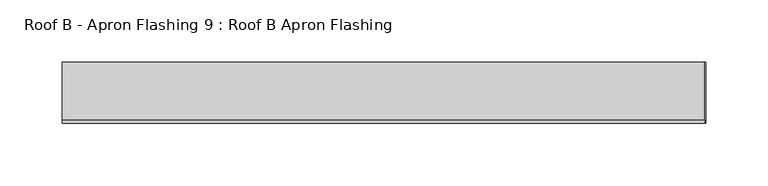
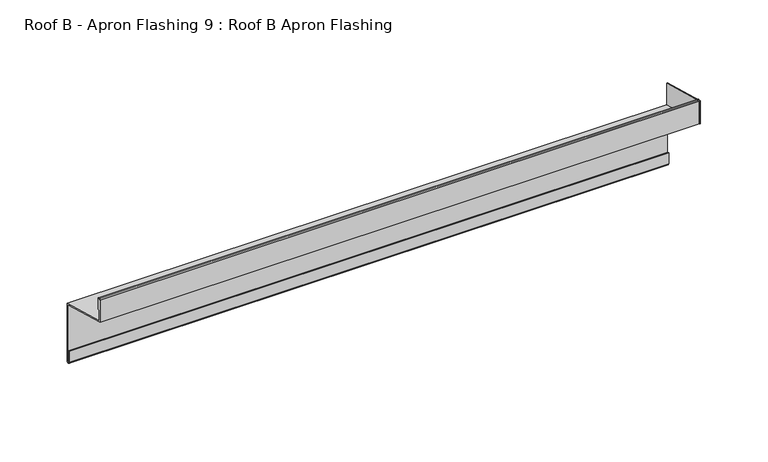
"""IFC4 building model written with IfcOpenShell, lengths in millimetres: proxy geometry, Roof B - Apron Flashing 9 : Roof B Apron Flashing."""

from ifc_helpers import new_model, si_unit, point, frame, frame_2d, origin, place, context, project, spatial, polyline, circle_curve, trimmed, segment, composite_curve, outline, extrude, source, transform, mapped, element, save


def roof_b_apron_flashing_9_roof_b_apron_flashing_62092195(model_context):
    return source(origin(), model_context, "Body", "SweptSolid", [
        extrude(outline(polyline([(-26589.4928264, -973.6339834), (-26589.4928264, -953.130654), (-26540.7391961, -966.1941499), (-26540.7391961, -986.6974792), (-26589.4928264, -973.6339834)])), frame((13537.8825627, 0.0, 0.0), z_axis=(1.0, 0.0, 0.0), x_axis=(0.0, 1.0, 0.0)), (0.0, 0.0, 1.0), 0.8428395),
        extrude(outline(composite_curve([segment(polyline([(-26540.7391961, -985.662203), (-26540.7391961, -1037.6563748)]), True, "CONTINUOUS"), segment(trimmed(circle_curve(frame_2d((-26542.2391961, -1037.6563748)), 1.5), [point((-26540.7391961, -1037.6563748))], [point((-26543.7391961, -1037.6563748))], False, "CARTESIAN"), True, "CONTINUOUS"), segment(polyline([(-26543.7391961, -1037.6563748), (-26543.7391961, -1027.6933761), (-26542.7391961, -1027.6933761), (-26542.7391961, -1037.6563748)]), True, "CONTINUOUS"), segment(trimmed(circle_curve(frame_2d((-26542.2391961, -1037.6563748)), 0.5), [point((-26542.7391961, -1037.6563748))], [point((-26541.7391961, -1037.6563748))], True, "CARTESIAN"), True, "CONTINUOUS"), segment(polyline([(-26541.7391961, -1037.6563748), (-26541.7391961, -986.42953), (-26589.4928264, -973.6339834), (-26589.4928264, -953.3538686)]), True, "CONTINUOUS"), segment(trimmed(circle_curve(frame_2d((-26588.2428264, -953.3538686)), 1.25), [point((-26589.4928264, -953.3538686))], [point((-26586.9928264, -953.3538686))], False, "CARTESIAN"), True, "CONTINUOUS"), segment(polyline([(-26586.9928264, -953.3538686), (-26586.9928264, -962.6360034)]), True, "CONTINUOUS"), segment(trimmed(circle_curve(frame_2d((-26587.4928264, -962.6360034)), 0.5), [point((-26586.9928264, -962.6360034))], [point((-26587.9928264, -962.6360034))], False, "CARTESIAN"), True, "CONTINUOUS"), segment(polyline([(-26587.9928264, -962.6360034), (-26587.9928264, -953.3538686)]), True, "CONTINUOUS"), segment(trimmed(circle_curve(frame_2d((-26588.2428264, -953.3538686)), 0.25), [point((-26587.9928264, -953.3538686))], [point((-26588.4928264, -953.3538686))], True, "CARTESIAN"), True, "CONTINUOUS"), segment(polyline([(-26588.4928264, -953.3538686), (-26588.4928264, -972.8666564), (-26540.7391961, -985.662203)]), True, "CONTINUOUS")], self_intersect=False)), frame((13022.8825627, 0.0, 0.0), z_axis=(1.0, 0.0, 0.0), x_axis=(0.0, 1.0, 0.0)), (0.0, 0.0, 1.0), 515.0),
    ])


if __name__ == "__main__":
    model = new_model("IFC4")
    model_context = context("Model", 3, world=origin())
    ifc_project = project(units=[si_unit("LENGTHUNIT", "METRE", prefix="MILLI")], contexts=[model_context])
    site = spatial("IfcSite", under=ifc_project)
    building = spatial("IfcBuilding", under=site)
    placement = place(None, origin())
    roof_b_apron_flashing_9_roof_b_apron_flashing_shape = roof_b_apron_flashing_9_roof_b_apron_flashing_62092195(model_context)
    element("IfcBuildingElementProxy", 1, Name="Roof B - Apron Flashing 9 : Roof B Apron Flashing", ObjectType="Roof B - Apron Flashing 9 : Roof B Apron Flashing", at=placement, inside=building, context=model_context, shape_type="MappedRepresentation", body=[
        mapped(roof_b_apron_flashing_9_roof_b_apron_flashing_shape, transform((0.0, 0.0, 0.0), x_axis=(1.0, 0.0, 0.0), y_axis=(0.0, 1.0, 0.0), z_axis=(0.0, 0.0, 1.0))),
    ])
    save(model, "model.ifc")
